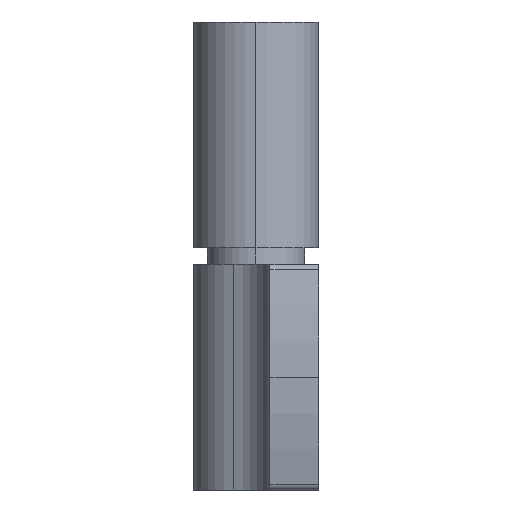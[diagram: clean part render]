
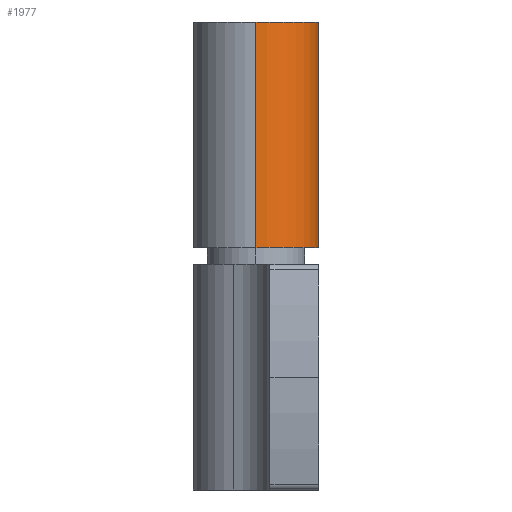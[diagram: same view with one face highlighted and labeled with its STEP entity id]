
A CAD part, left-side view. The second image highlights one B-rep face of the part: STEP entity #1977.
In plain terms, the highlighted cylindrical face has radius 4.5 mm (diameter 9 mm), a partial arc.
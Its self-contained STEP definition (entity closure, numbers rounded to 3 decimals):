
#181 = EDGE_CURVE ( 'NONE', #3825, #4275, #1140, .T. ) ;
#293 = CIRCLE ( 'NONE', #1873, 4.5 ) ;
#396 = EDGE_CURVE ( 'NONE', #2139, #610, #616, .T. ) ;
#610 = VERTEX_POINT ( 'NONE', #4843 ) ;
#616 = LINE ( 'NONE', #2888, #3347 ) ;
#893 = CARTESIAN_POINT ( 'NONE',  ( -4.5, 0., 16.8 ) ) ;
#1114 = CIRCLE ( 'NONE', #4499, 4.5 ) ;
#1123 = DIRECTION ( 'NONE',  ( 1., 0., 0. ) ) ;
#1140 = LINE ( 'NONE', #1466, #4789 ) ;
#1228 = DIRECTION ( 'NONE',  ( -1., 0., 0. ) ) ;
#1466 = CARTESIAN_POINT ( 'NONE',  ( 0., -4.5, 16.8 ) ) ;
#1600 = FACE_OUTER_BOUND ( 'NONE', #3292, .T. ) ;
#1833 = CARTESIAN_POINT ( 'NONE',  ( 0., 0., 0.6 ) ) ;
#1839 = EDGE_CURVE ( 'NONE', #610, #4275, #293, .T. ) ;
#1873 = AXIS2_PLACEMENT_3D ( 'NONE', #1833, #2600, #1123 ) ;
#1905 = ORIENTED_EDGE ( 'NONE', *, *, #3609, .F. ) ;
#1906 = ORIENTED_EDGE ( 'NONE', *, *, #1839, .T. ) ;
#1925 = DIRECTION ( 'NONE',  ( 0., 0., -1. ) ) ;
#1977 = ADVANCED_FACE ( 'NONE', ( #1600 ), #4560, .T. ) ;
#2139 = VERTEX_POINT ( 'NONE', #893 ) ;
#2352 = CARTESIAN_POINT ( 'NONE',  ( 0., -4.5, 0.6 ) ) ;
#2394 = DIRECTION ( 'NONE',  ( 1., 0., 0. ) ) ;
#2600 = DIRECTION ( 'NONE',  ( 0., 0., 1. ) ) ;
#2839 = CARTESIAN_POINT ( 'NONE',  ( 0., 0., 16.8 ) ) ;
#2888 = CARTESIAN_POINT ( 'NONE',  ( -4.5, 0., 16.8 ) ) ;
#3100 = CARTESIAN_POINT ( 'NONE',  ( 0., 0., 16.8 ) ) ;
#3132 = ORIENTED_EDGE ( 'NONE', *, *, #396, .T. ) ;
#3292 = EDGE_LOOP ( 'NONE', ( #1905, #3132, #1906, #4794 ) ) ;
#3347 = VECTOR ( 'NONE', #4389, 1000. ) ;
#3609 = EDGE_CURVE ( 'NONE', #2139, #3825, #1114, .T. ) ;
#3750 = DIRECTION ( 'NONE',  ( 0., 0., -1. ) ) ;
#3825 = VERTEX_POINT ( 'NONE', #4840 ) ;
#4095 = AXIS2_PLACEMENT_3D ( 'NONE', #3100, #3750, #1228 ) ;
#4275 = VERTEX_POINT ( 'NONE', #2352 ) ;
#4285 = DIRECTION ( 'NONE',  ( 0., 0., 1. ) ) ;
#4389 = DIRECTION ( 'NONE',  ( 0., 0., -1. ) ) ;
#4499 = AXIS2_PLACEMENT_3D ( 'NONE', #2839, #4285, #2394 ) ;
#4560 = CYLINDRICAL_SURFACE ( 'NONE', #4095, 4.5 ) ;
#4789 = VECTOR ( 'NONE', #1925, 1000. ) ;
#4794 = ORIENTED_EDGE ( 'NONE', *, *, #181, .F. ) ;
#4840 = CARTESIAN_POINT ( 'NONE',  ( 0., -4.5, 16.8 ) ) ;
#4843 = CARTESIAN_POINT ( 'NONE',  ( -4.5, 0., 0.6 ) ) ;
